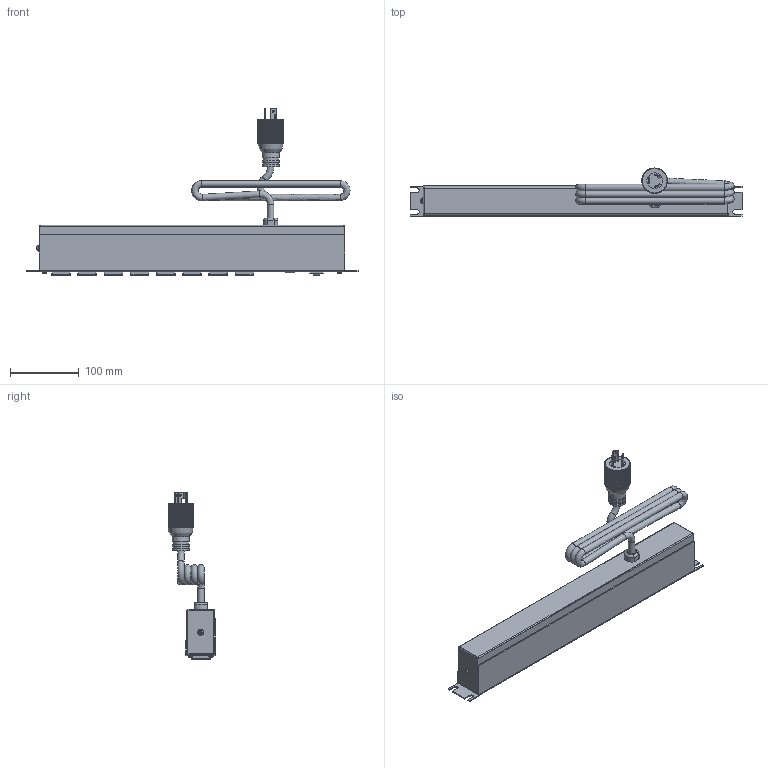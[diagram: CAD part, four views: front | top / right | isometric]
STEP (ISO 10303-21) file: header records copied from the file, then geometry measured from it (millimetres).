
FILE_DESCRIPTION((''),'2;1');
FILE_NAME('E:\Dutton\Manufacturing\drawings\Updated 2009\POWER BARS\1582 series\STEP''s\1582T8C1BK.stp','2010-01-06T11:49:39',('tfoster'),(''),'Autodesk Inventor 2010','Autodesk Inventor 2010','');
FILE_SCHEMA(('AUTOMOTIVE_DESIGN { 1 0 10303 214 1 1 1 1 }'));
Products named in the file (10): 1582T8C1BK; 1582H8 Front plate; 1582 Back Plate; #6 - 0.375 Type A screw; Reset Switch; Twist Cored 2; toothwasher; round head 1-way 8-32 x 0.5 screw; Receptacle; Pilot light
Assembly tree (19 placements, depth 2):
  1582T8C1BK
    1582H8 Front plate
    1582 Back Plate
    #6 - 0.375 Type A screw  x4
    Reset Switch
    Twist Cored 2
    toothwasher
    round head 1-way 8-32 x 0.5 screw
    Receptacle  x8
    Pilot light
Bounding box: 482.6 x 69.48 x 242.61 mm (x, y, z)
Volume: 419147.1 mm3; surface area: 315843.3 mm2
Topology: 19 solids, 19 shells, 1199 faces, 3361 edges, 2204 vertices
Faces by surface type: plane 827, cylinder 223, bspline 72, sphere 37, cone 25, torus 15
Full cylindrical faces by diameter (mm): 1.803 x3, 1.905 x2, 2.997 x4, 3.175 x3, 4.3 x1, 4.801 x1, 5.563 x4, 7.849 x1, 9.5 x5, 11 x1, 21.59 x2, 22.86 x1, 24.765 x3
Entity records: 27651 total; most frequent: CARTESIAN_POINT 8192, ORIENTED_EDGE 4130, DIRECTION 3709, EDGE_CURVE 2065, VERTEX_POINT 1406, VECTOR 1367, LINE 1367, AXIS2_PLACEMENT_3D 1171
